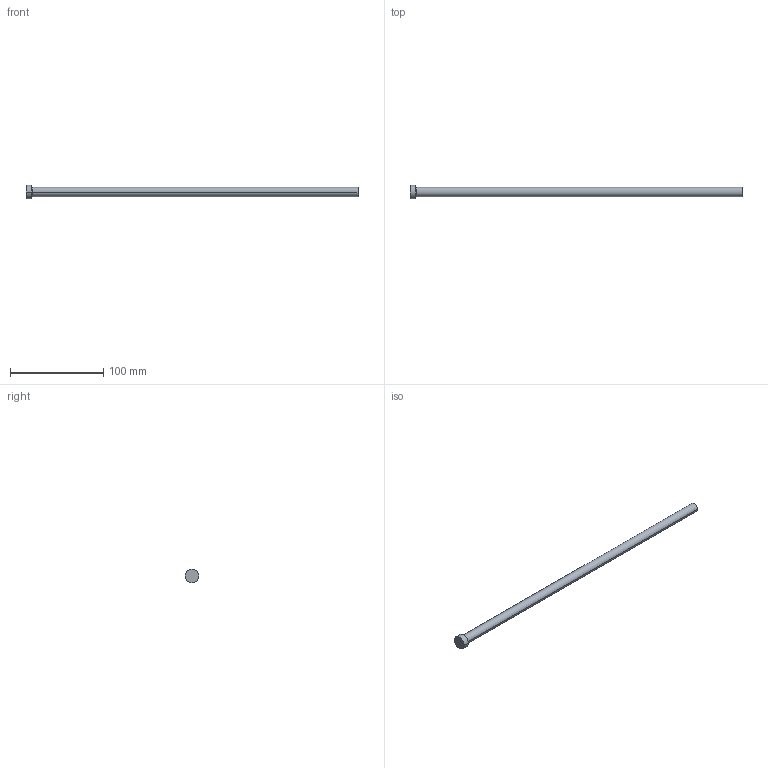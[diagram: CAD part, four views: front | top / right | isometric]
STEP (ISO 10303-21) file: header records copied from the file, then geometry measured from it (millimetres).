
FILE_DESCRIPTION (( 'STEP AP214' ), '1' );
FILE_NAME ('P26-14.STEP', '2020-03-12T10:03:14', ( '' ), ( '' ), 'SwSTEP 2.0', 'SolidWorks 2018', '' );
FILE_SCHEMA (( 'AUTOMOTIVE_DESIGN' ));
Length unit declared in the file: inch
Products named in the file (1): P26-14
Bounding box: 355.6 x 14.68 x 14.68 mm (x, y, z)
Volume: 28040.6 mm3; surface area: 11494.1 mm2
Topology: 1 solids, 1 shells, 13 faces, 24 edges, 14 vertices
Faces by surface type: cone 4, cylinder 4, plane 3, torus 2
Entity records: 366 total; most frequent: DIRECTION 68, CARTESIAN_POINT 52, ORIENTED_EDGE 48, AXIS2_PLACEMENT_3D 30, EDGE_CURVE 24, CIRCLE 16, VERTEX_POINT 14, EDGE_LOOP 14
